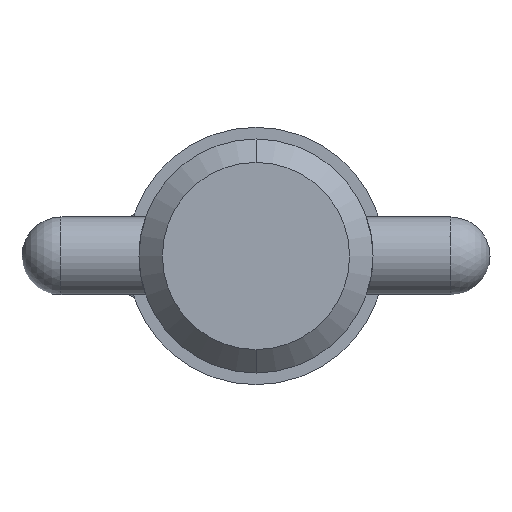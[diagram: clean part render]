
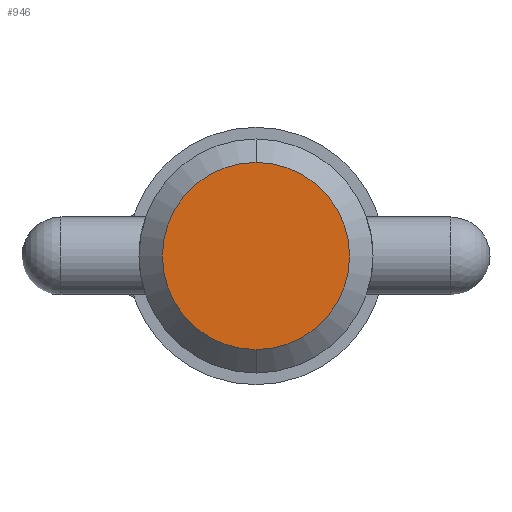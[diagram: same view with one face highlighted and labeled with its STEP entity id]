
A CAD part, left-side view. The second image highlights one B-rep face of the part: STEP entity #946.
In plain terms, the highlighted planar face has unit normal (-1, 0, 0).
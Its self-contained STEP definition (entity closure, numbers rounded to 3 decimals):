
#89 = FACE_OUTER_BOUND ( 'NONE', #531, .T. ) ;
#113 = AXIS2_PLACEMENT_3D ( 'NONE', #831, #498, #506 ) ;
#264 = DIRECTION ( 'NONE',  ( 0., 0., 1. ) ) ;
#313 = VERTEX_POINT ( 'NONE', #807 ) ;
#394 = DIRECTION ( 'NONE',  ( 1., 0., 0. ) ) ;
#401 = PLANE ( 'NONE',  #625 ) ;
#409 = AXIS2_PLACEMENT_3D ( 'NONE', #468, #394, #1053 ) ;
#468 = CARTESIAN_POINT ( 'NONE',  ( 0., 0., 0. ) ) ;
#480 = ORIENTED_EDGE ( 'NONE', *, *, #603, .F. ) ;
#498 = DIRECTION ( 'NONE',  ( 1., 0., 0. ) ) ;
#506 = DIRECTION ( 'NONE',  ( 0., 0., -1. ) ) ;
#530 = CIRCLE ( 'NONE', #409, 7.62 ) ;
#531 = EDGE_LOOP ( 'NONE', ( #480, #553 ) ) ;
#553 = ORIENTED_EDGE ( 'NONE', *, *, #920, .F. ) ;
#603 = EDGE_CURVE ( 'NONE', #947, #313, #819, .T. ) ;
#625 = AXIS2_PLACEMENT_3D ( 'NONE', #739, #931, #264 ) ;
#667 = CARTESIAN_POINT ( 'NONE',  ( 0., 0., -7.62 ) ) ;
#739 = CARTESIAN_POINT ( 'NONE',  ( 0., 0., 0. ) ) ;
#807 = CARTESIAN_POINT ( 'NONE',  ( 0., 0., 7.62 ) ) ;
#819 = CIRCLE ( 'NONE', #113, 7.62 ) ;
#831 = CARTESIAN_POINT ( 'NONE',  ( 0., 0., 0. ) ) ;
#920 = EDGE_CURVE ( 'NONE', #313, #947, #530, .T. ) ;
#931 = DIRECTION ( 'NONE',  ( -1., 0., 0. ) ) ;
#946 = ADVANCED_FACE ( 'NONE', ( #89 ), #401, .T. ) ;
#947 = VERTEX_POINT ( 'NONE', #667 ) ;
#1053 = DIRECTION ( 'NONE',  ( 0., 0., -1. ) ) ;
